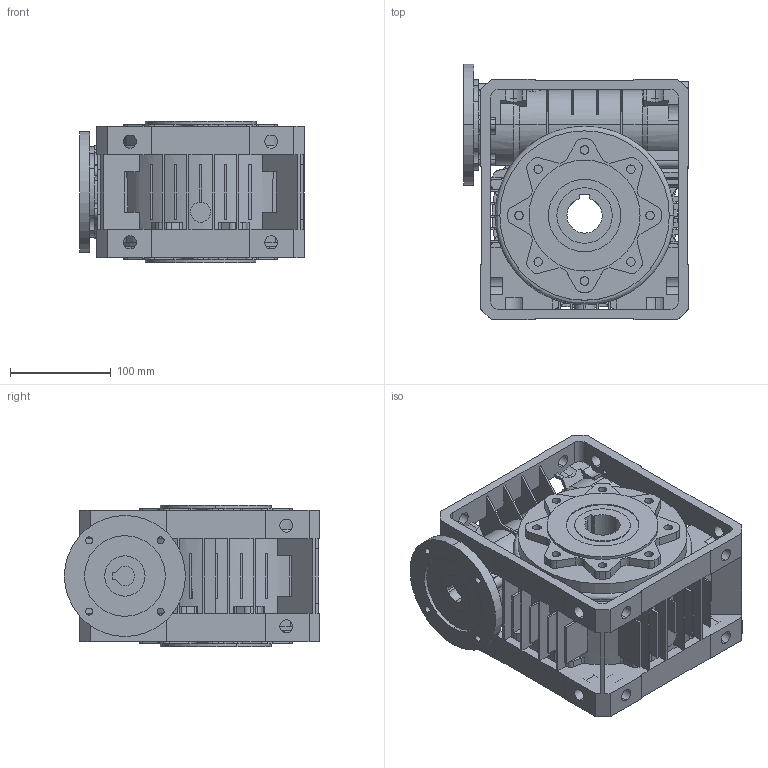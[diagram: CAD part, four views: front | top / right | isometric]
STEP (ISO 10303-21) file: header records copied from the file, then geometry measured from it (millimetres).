
FILE_DESCRIPTION (( 'STEP AP214' ), '1' );
FILE_NAME ('MU 90 NO PAM80B14 NO 0 D35 STANDARD 0 0.step', '2019-01-29T09:28:55', ( '' ), ( '' ), 'SwSTEP 2.0', 'SolidWorks 2015', '' );
FILE_SCHEMA (( 'AUTOMOTIVE_DESIGN' ));
Length unit declared in the file: millimetre
Products named in the file (7): OUTPUT SHAFT U-MU_U-MU 90 D.35; BODY U-MU 90 - 20088783; FAM MU 90_D.120; FLANGE FP U-MU 90 - 20089360; PAM MU 90_PAM 80 B14; MU 90 NO PAM80B14 NO 0 D35 STANDARD 0 0; INPUT SHAFT MU 90_F.19
Assembly tree (6 placements, depth 3):
  MU 90 NO PAM80B14 NO 0 D35 STANDARD 0 0
    BODY U-MU 90 - 20088783
    FLANGE FP U-MU 90 - 20089360
    OUTPUT SHAFT U-MU_U-MU 90 D.35
    PAM MU 90_PAM 80 B14
      FAM MU 90_D.120
      INPUT SHAFT MU 90_F.19
Bounding box: 223 x 253 x 140 mm (x, y, z)
Volume: 4366705.2 mm3; surface area: 567044.8 mm2
Topology: 5 solids, 6 shells, 1058 faces, 3085 edges, 2040 vertices
Faces by surface type: cylinder 502, plane 498, cone 46, bspline 12
Entity records: 39951 total; most frequent: CARTESIAN_POINT 7405, DIRECTION 6222, ORIENTED_EDGE 6170, EDGE_CURVE 3085, AXIS2_PLACEMENT_3D 2230, VERTEX_POINT 2040, LINE 1762, VECTOR 1762
